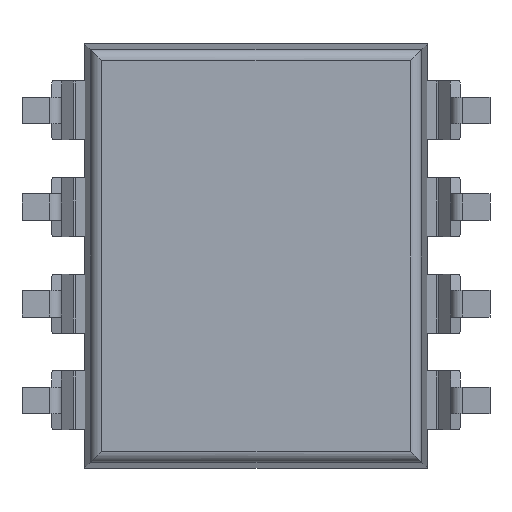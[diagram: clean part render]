
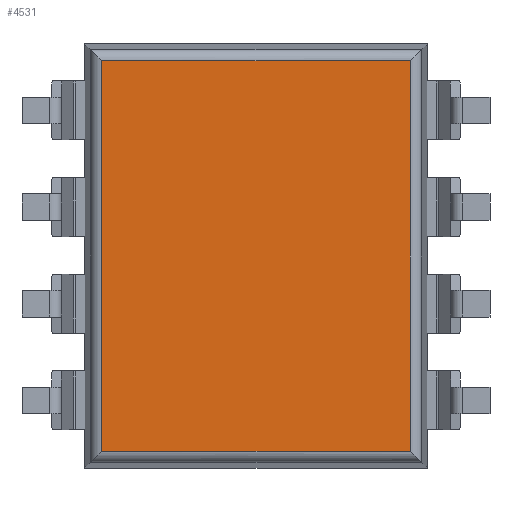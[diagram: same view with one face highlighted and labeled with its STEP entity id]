
A CAD part, front view. The second image highlights one B-rep face of the part: STEP entity #4531.
In plain terms, the highlighted planar face has unit normal (0, -1, 0).
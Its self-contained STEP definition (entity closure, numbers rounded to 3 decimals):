
#126 = ORIENTED_EDGE ( 'NONE', *, *, #1881, .T. ) ;
#209 = LINE ( 'NONE', #2682, #4320 ) ;
#261 = AXIS2_PLACEMENT_3D ( 'NONE', #1909, #3141, #2329 ) ;
#324 = ORIENTED_EDGE ( 'NONE', *, *, #841, .T. ) ;
#349 = PLANE ( 'NONE',  #261 ) ;
#392 = DIRECTION ( 'NONE',  ( 1., 0., 0. ) ) ;
#495 = LINE ( 'NONE', #590, #3662 ) ;
#587 = CARTESIAN_POINT ( 'NONE',  ( -4.05, 1., 0. ) ) ;
#590 = CARTESIAN_POINT ( 'NONE',  ( 4.05, 1., 0. ) ) ;
#841 = EDGE_CURVE ( 'NONE', #4980, #3018, #1502, .T. ) ;
#998 = CARTESIAN_POINT ( 'NONE',  ( -4.05, 1., -5.125 ) ) ;
#1388 = VERTEX_POINT ( 'NONE', #3938 ) ;
#1440 = ORIENTED_EDGE ( 'NONE', *, *, #2731, .T. ) ;
#1447 = ORIENTED_EDGE ( 'NONE', *, *, #4908, .T. ) ;
#1502 = LINE ( 'NONE', #587, #4397 ) ;
#1599 = CARTESIAN_POINT ( 'NONE',  ( 0., 1., -5.125 ) ) ;
#1737 = DIRECTION ( 'NONE',  ( -1., 0., 0. ) ) ;
#1881 = EDGE_CURVE ( 'NONE', #3819, #4980, #209, .T. ) ;
#1909 = CARTESIAN_POINT ( 'NONE',  ( 0., 1., 0. ) ) ;
#2131 = DIRECTION ( 'NONE',  ( 0., 0., -1. ) ) ;
#2136 = EDGE_LOOP ( 'NONE', ( #1440, #126, #324, #1447 ) ) ;
#2329 = DIRECTION ( 'NONE',  ( 0., 0., -1. ) ) ;
#2682 = CARTESIAN_POINT ( 'NONE',  ( 0., 1., 5.125 ) ) ;
#2731 = EDGE_CURVE ( 'NONE', #1388, #3819, #495, .T. ) ;
#3018 = VERTEX_POINT ( 'NONE', #998 ) ;
#3141 = DIRECTION ( 'NONE',  ( 0., -1., 0. ) ) ;
#3331 = DIRECTION ( 'NONE',  ( 0., 0., 1. ) ) ;
#3662 = VECTOR ( 'NONE', #3331, 1000. ) ;
#3779 = LINE ( 'NONE', #1599, #3900 ) ;
#3819 = VERTEX_POINT ( 'NONE', #4057 ) ;
#3900 = VECTOR ( 'NONE', #392, 1000. ) ;
#3938 = CARTESIAN_POINT ( 'NONE',  ( 4.05, 1., -5.125 ) ) ;
#4057 = CARTESIAN_POINT ( 'NONE',  ( 4.05, 1., 5.125 ) ) ;
#4320 = VECTOR ( 'NONE', #1737, 1000. ) ;
#4397 = VECTOR ( 'NONE', #2131, 1000. ) ;
#4531 = ADVANCED_FACE ( 'NONE', ( #4807 ), #349, .T. ) ;
#4807 = FACE_OUTER_BOUND ( 'NONE', #2136, .T. ) ;
#4908 = EDGE_CURVE ( 'NONE', #3018, #1388, #3779, .T. ) ;
#4956 = CARTESIAN_POINT ( 'NONE',  ( -4.05, 1., 5.125 ) ) ;
#4980 = VERTEX_POINT ( 'NONE', #4956 ) ;
